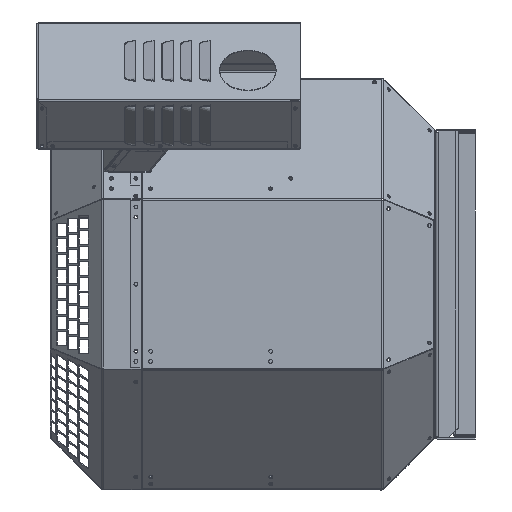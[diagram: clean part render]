
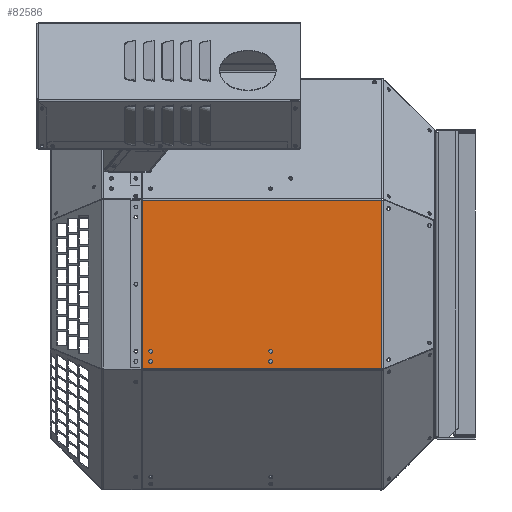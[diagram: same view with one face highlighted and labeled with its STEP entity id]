
A CAD part, left-side view. The second image highlights one B-rep face of the part: STEP entity #82586.
In plain terms, the highlighted planar face has unit normal (-1, 0, 0).
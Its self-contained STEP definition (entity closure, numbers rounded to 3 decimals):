
#27 = CARTESIAN_POINT ( 'NONE',  ( -226., 58.185, -92.287 ) ) ;
#60 = VERTEX_POINT ( 'NONE', #58379 ) ;
#104 = ORIENTED_EDGE ( 'NONE', *, *, #64450, .F. ) ;
#232 = CIRCLE ( 'NONE', #14051, 2.1 ) ;
#356 = VERTEX_POINT ( 'NONE', #84733 ) ;
#2043 = ORIENTED_EDGE ( 'NONE', *, *, #19458, .F. ) ;
#2282 = DIRECTION ( 'NONE',  ( -1., 0., 0. ) ) ;
#2943 = CIRCLE ( 'NONE', #25615, 2.1 ) ;
#3003 = CARTESIAN_POINT ( 'NONE',  ( -226., 180.147, -86.918 ) ) ;
#3394 = LINE ( 'NONE', #54360, #72522 ) ;
#6634 = EDGE_LOOP ( 'NONE', ( #47201, #77436, #9359, #30224, #44253, #53276, #78236, #75194 ) ) ;
#6751 = CIRCLE ( 'NONE', #76161, 2.1 ) ;
#7117 = DIRECTION ( 'NONE',  ( -1., 0., 0. ) ) ;
#7828 = DIRECTION ( 'NONE',  ( 0., -1., 0. ) ) ;
#8845 = VERTEX_POINT ( 'NONE', #46980 ) ;
#9359 = ORIENTED_EDGE ( 'NONE', *, *, #47187, .T. ) ;
#9468 = VERTEX_POINT ( 'NONE', #25832 ) ;
#9583 = ORIENTED_EDGE ( 'NONE', *, *, #26494, .F. ) ;
#10087 = EDGE_CURVE ( 'NONE', #9468, #60, #32644, .T. ) ;
#10625 = EDGE_CURVE ( 'NONE', #51241, #52573, #232, .T. ) ;
#12052 = EDGE_CURVE ( 'NONE', #60, #9468, #74408, .T. ) ;
#12488 = DIRECTION ( 'NONE',  ( 0., 0., -1. ) ) ;
#12955 = EDGE_LOOP ( 'NONE', ( #2043, #39721 ) ) ;
#13143 = LINE ( 'NONE', #65520, #60292 ) ;
#13635 = VECTOR ( 'NONE', #41164, 1000. ) ;
#14051 = AXIS2_PLACEMENT_3D ( 'NONE', #42427, #2282, #49137 ) ;
#15270 = CARTESIAN_POINT ( 'NONE',  ( -226., 320.755, 94.837 ) ) ;
#15896 = CARTESIAN_POINT ( 'NONE',  ( -226., 334.155, 91.837 ) ) ;
#17424 = AXIS2_PLACEMENT_3D ( 'NONE', #22729, #69527, #29418 ) ;
#17427 = CARTESIAN_POINT ( 'NONE',  ( -226., 334.155, -91.837 ) ) ;
#17638 = DIRECTION ( 'NONE',  ( -1., 0., 0. ) ) ;
#18847 = VERTEX_POINT ( 'NONE', #27 ) ;
#19458 = EDGE_CURVE ( 'NONE', #43789, #67872, #6751, .T. ) ;
#19670 = CARTESIAN_POINT ( 'NONE',  ( -226., 311.927, -84.818 ) ) ;
#20518 = DIRECTION ( 'NONE',  ( -1., 0., 0. ) ) ;
#21191 = CARTESIAN_POINT ( 'NONE',  ( -226., 180.147, -84.818 ) ) ;
#21683 = FACE_BOUND ( 'NONE', #12955, .T. ) ;
#22174 = EDGE_CURVE ( 'NONE', #52573, #51241, #69170, .T. ) ;
#22729 = CARTESIAN_POINT ( 'NONE',  ( -226., 311.927, -73.71 ) ) ;
#23705 = ORIENTED_EDGE ( 'NONE', *, *, #22174, .F. ) ;
#23766 = PLANE ( 'NONE',  #26835 ) ;
#25330 = CARTESIAN_POINT ( 'NONE',  ( -226., 320.763, 93.198 ) ) ;
#25528 = VERTEX_POINT ( 'NONE', #42414 ) ;
#25615 = AXIS2_PLACEMENT_3D ( 'NONE', #65766, #25679, #72489 ) ;
#25679 = DIRECTION ( 'NONE',  ( -1., 0., 0. ) ) ;
#25832 = CARTESIAN_POINT ( 'NONE',  ( -226., 180.147, -75.81 ) ) ;
#25862 = ORIENTED_EDGE ( 'NONE', *, *, #10087, .F. ) ;
#26071 = ORIENTED_EDGE ( 'NONE', *, *, #12052, .F. ) ;
#26399 = DIRECTION ( 'NONE',  ( 0., 0., 1. ) ) ;
#26411 = CARTESIAN_POINT ( 'NONE',  ( -226., 311.927, -71.61 ) ) ;
#26494 = EDGE_CURVE ( 'NONE', #58845, #81666, #61534, .T. ) ;
#26835 = AXIS2_PLACEMENT_3D ( 'NONE', #37210, #84004, #43950 ) ;
#27891 = DIRECTION ( 'NONE',  ( 0., 0., 1. ) ) ;
#28254 = VECTOR ( 'NONE', #7828, 1000. ) ;
#28421 = LINE ( 'NONE', #17427, #44183 ) ;
#28563 = AXIS2_PLACEMENT_3D ( 'NONE', #19670, #66516, #26399 ) ;
#29418 = DIRECTION ( 'NONE',  ( 0., 0., 1. ) ) ;
#30224 = ORIENTED_EDGE ( 'NONE', *, *, #70545, .T. ) ;
#31626 = EDGE_LOOP ( 'NONE', ( #26071, #25862 ) ) ;
#32187 = CARTESIAN_POINT ( 'NONE',  ( -226., 311.927, -82.718 ) ) ;
#32644 = CIRCLE ( 'NONE', #75749, 2.1 ) ;
#33760 = VECTOR ( 'NONE', #62690, 1000. ) ;
#34422 = EDGE_LOOP ( 'NONE', ( #104, #9583 ) ) ;
#37166 = EDGE_CURVE ( 'NONE', #86625, #72765, #85097, .T. ) ;
#37210 = CARTESIAN_POINT ( 'NONE',  ( -226., 334.155, 93.198 ) ) ;
#37389 = FACE_OUTER_BOUND ( 'NONE', #6634, .T. ) ;
#37413 = CIRCLE ( 'NONE', #68810, 2.1 ) ;
#39721 = ORIENTED_EDGE ( 'NONE', *, *, #65214, .F. ) ;
#41164 = DIRECTION ( 'NONE',  ( 0., 0., -1. ) ) ;
#42414 = CARTESIAN_POINT ( 'NONE',  ( -226., 320.755, -92.287 ) ) ;
#42427 = CARTESIAN_POINT ( 'NONE',  ( -226., 311.927, -84.818 ) ) ;
#42838 = EDGE_CURVE ( 'NONE', #356, #83296, #3394, .T. ) ;
#43028 = VECTOR ( 'NONE', #65414, 1000. ) ;
#43789 = VERTEX_POINT ( 'NONE', #52930 ) ;
#43950 = DIRECTION ( 'NONE',  ( 0., 0., 1. ) ) ;
#44183 = VECTOR ( 'NONE', #50781, 1000. ) ;
#44253 = ORIENTED_EDGE ( 'NONE', *, *, #58947, .F. ) ;
#44258 = EDGE_CURVE ( 'NONE', #356, #86625, #61963, .T. ) ;
#45099 = LINE ( 'NONE', #25330, #43028 ) ;
#45347 = CARTESIAN_POINT ( 'NONE',  ( -226., 311.927, -75.81 ) ) ;
#46140 = CARTESIAN_POINT ( 'NONE',  ( -226., 320.763, 91.837 ) ) ;
#46980 = CARTESIAN_POINT ( 'NONE',  ( -226., 320.763, -91.837 ) ) ;
#47187 = EDGE_CURVE ( 'NONE', #76738, #25528, #49293, .T. ) ;
#47201 = ORIENTED_EDGE ( 'NONE', *, *, #55647, .F. ) ;
#47228 = CARTESIAN_POINT ( 'NONE',  ( -226., 180.147, -84.818 ) ) ;
#47659 = CARTESIAN_POINT ( 'NONE',  ( -226., 334.155, -92.287 ) ) ;
#49137 = DIRECTION ( 'NONE',  ( 0., 0., 1. ) ) ;
#49293 = LINE ( 'NONE', #81227, #13635 ) ;
#49461 = AXIS2_PLACEMENT_3D ( 'NONE', #60584, #20518, #67332 ) ;
#50781 = DIRECTION ( 'NONE',  ( 0., -1., 0. ) ) ;
#51241 = VERTEX_POINT ( 'NONE', #32187 ) ;
#52573 = VERTEX_POINT ( 'NONE', #75873 ) ;
#52930 = CARTESIAN_POINT ( 'NONE',  ( -226., 180.147, -82.718 ) ) ;
#53276 = ORIENTED_EDGE ( 'NONE', *, *, #42838, .F. ) ;
#53948 = DIRECTION ( 'NONE',  ( 0., 0., 1. ) ) ;
#53958 = EDGE_CURVE ( 'NONE', #8845, #76738, #28421, .T. ) ;
#54360 = CARTESIAN_POINT ( 'NONE',  ( -226., 334.155, 92.287 ) ) ;
#55166 = FACE_BOUND ( 'NONE', #34422, .T. ) ;
#55647 = EDGE_CURVE ( 'NONE', #8845, #72765, #45099, .T. ) ;
#56585 = CARTESIAN_POINT ( 'NONE',  ( -226., 320.755, -91.837 ) ) ;
#57662 = CARTESIAN_POINT ( 'NONE',  ( -226., 180.147, -73.71 ) ) ;
#58379 = CARTESIAN_POINT ( 'NONE',  ( -226., 180.147, -71.61 ) ) ;
#58845 = VERTEX_POINT ( 'NONE', #45347 ) ;
#58947 = EDGE_CURVE ( 'NONE', #83296, #18847, #13143, .T. ) ;
#60292 = VECTOR ( 'NONE', #12488, 1000. ) ;
#60584 = CARTESIAN_POINT ( 'NONE',  ( -226., 180.147, -73.71 ) ) ;
#61534 = CIRCLE ( 'NONE', #17424, 2.1 ) ;
#61963 = LINE ( 'NONE', #15270, #77698 ) ;
#62690 = DIRECTION ( 'NONE',  ( 0., 1., 0. ) ) ;
#63888 = LINE ( 'NONE', #47659, #28254 ) ;
#64422 = DIRECTION ( 'NONE',  ( 0., 0., 1. ) ) ;
#64450 = EDGE_CURVE ( 'NONE', #81666, #58845, #2943, .T. ) ;
#65214 = EDGE_CURVE ( 'NONE', #67872, #43789, #37413, .T. ) ;
#65414 = DIRECTION ( 'NONE',  ( 0., 0., 1. ) ) ;
#65520 = CARTESIAN_POINT ( 'NONE',  ( -226., 58.185, 93.198 ) ) ;
#65766 = CARTESIAN_POINT ( 'NONE',  ( -226., 311.927, -73.71 ) ) ;
#66516 = DIRECTION ( 'NONE',  ( -1., 0., 0. ) ) ;
#67332 = DIRECTION ( 'NONE',  ( 0., 0., 1. ) ) ;
#67872 = VERTEX_POINT ( 'NONE', #3003 ) ;
#67999 = DIRECTION ( 'NONE',  ( -1., 0., 0. ) ) ;
#68112 = DIRECTION ( 'NONE',  ( 0., -1., 0. ) ) ;
#68810 = AXIS2_PLACEMENT_3D ( 'NONE', #21191, #67999, #27891 ) ;
#68814 = DIRECTION ( 'NONE',  ( 0., 0., -1. ) ) ;
#69170 = CIRCLE ( 'NONE', #28563, 2.1 ) ;
#69527 = DIRECTION ( 'NONE',  ( -1., 0., 0. ) ) ;
#70545 = EDGE_CURVE ( 'NONE', #25528, #18847, #63888, .T. ) ;
#72489 = DIRECTION ( 'NONE',  ( 0., 0., 1. ) ) ;
#72522 = VECTOR ( 'NONE', #68112, 1000. ) ;
#72765 = VERTEX_POINT ( 'NONE', #46140 ) ;
#72961 = FACE_BOUND ( 'NONE', #84991, .T. ) ;
#74408 = CIRCLE ( 'NONE', #49461, 2.1 ) ;
#75060 = FACE_BOUND ( 'NONE', #31626, .T. ) ;
#75194 = ORIENTED_EDGE ( 'NONE', *, *, #37166, .T. ) ;
#75749 = AXIS2_PLACEMENT_3D ( 'NONE', #57662, #17638, #64422 ) ;
#75873 = CARTESIAN_POINT ( 'NONE',  ( -226., 311.927, -86.918 ) ) ;
#76161 = AXIS2_PLACEMENT_3D ( 'NONE', #47228, #7117, #53948 ) ;
#76738 = VERTEX_POINT ( 'NONE', #56585 ) ;
#76763 = ORIENTED_EDGE ( 'NONE', *, *, #10625, .F. ) ;
#77436 = ORIENTED_EDGE ( 'NONE', *, *, #53958, .T. ) ;
#77698 = VECTOR ( 'NONE', #68814, 1000. ) ;
#77707 = CARTESIAN_POINT ( 'NONE',  ( -226., 58.185, 92.287 ) ) ;
#78236 = ORIENTED_EDGE ( 'NONE', *, *, #44258, .T. ) ;
#81227 = CARTESIAN_POINT ( 'NONE',  ( -226., 320.755, -94.837 ) ) ;
#81666 = VERTEX_POINT ( 'NONE', #26411 ) ;
#82329 = CARTESIAN_POINT ( 'NONE',  ( -226., 320.755, 91.837 ) ) ;
#82586 = ADVANCED_FACE ( 'NONE', ( #21683, #75060, #72961, #55166, #37389 ), #23766, .T. ) ;
#83296 = VERTEX_POINT ( 'NONE', #77707 ) ;
#84004 = DIRECTION ( 'NONE',  ( -1., 0., 0. ) ) ;
#84733 = CARTESIAN_POINT ( 'NONE',  ( -226., 320.755, 92.287 ) ) ;
#84991 = EDGE_LOOP ( 'NONE', ( #76763, #23705 ) ) ;
#85097 = LINE ( 'NONE', #15896, #33760 ) ;
#86625 = VERTEX_POINT ( 'NONE', #82329 ) ;
